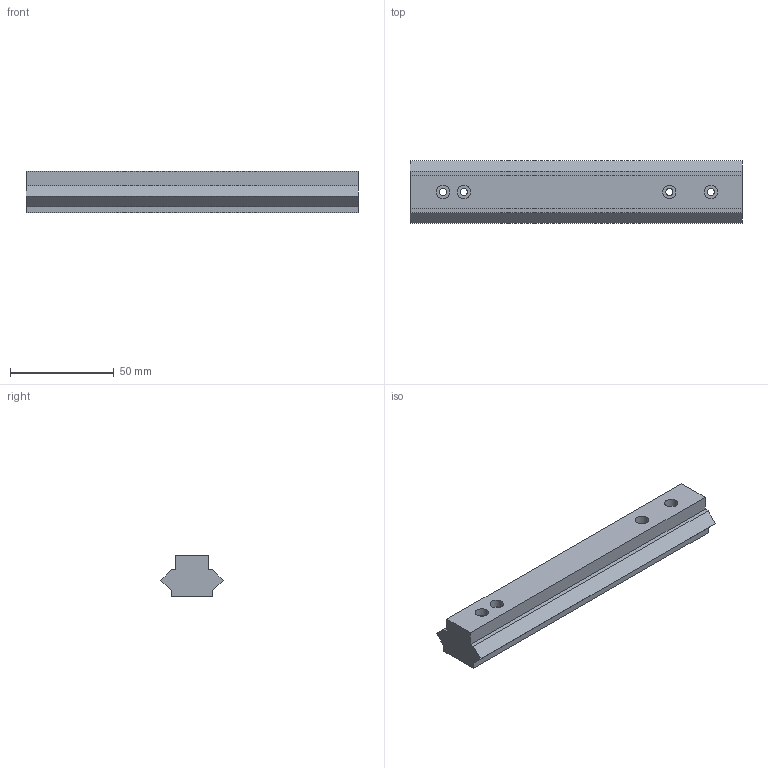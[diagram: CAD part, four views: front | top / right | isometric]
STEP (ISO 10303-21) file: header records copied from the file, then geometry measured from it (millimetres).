
FILE_DESCRIPTION(('Open CASCADE Model'),'2;1');
FILE_NAME('Open CASCADE Shape Model','2026-10-21T12:04:46',('Author'),( 'Open CASCADE'),'Open CASCADE STEP processor 7.9','Open CASCADE 7.9' ,'Unknown');
FILE_SCHEMA(('AUTOMOTIVE_DESIGN { 1 0 10303 214 1 1 1 1 }'));
Length unit declared in the file: millimetre
Products named in the file (1): Open CASCADE STEP translator 7.9 4
Bounding box: 159.9 x 30 x 20 mm (x, y, z)
Volume: 66382 mm3; surface area: 15893.3 mm2
Topology: 1 solids, 1 shells, 26 faces, 60 edges, 40 vertices
Faces by surface type: plane 18, cylinder 8
Full cylindrical faces by diameter (mm): 3.4 x4, 6.4 x4
Entity records: 1570 total; most frequent: CARTESIAN_POINT 295, DIRECTION 242, LINE 148, VECTOR 148, ORIENTED_EDGE 120, PCURVE 120, DEFINITIONAL_REPRESENTATION 120, EDGE_CURVE 60
